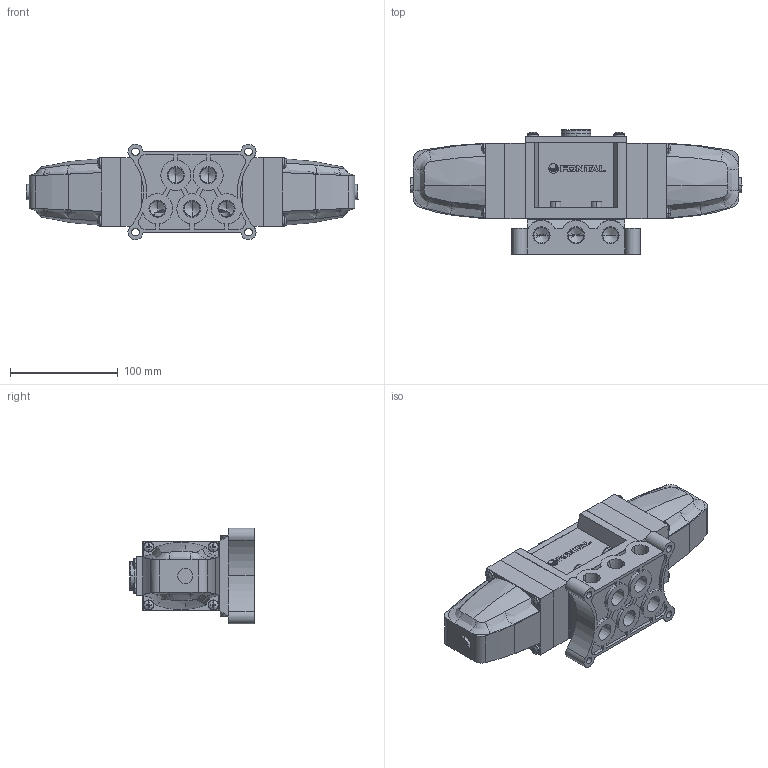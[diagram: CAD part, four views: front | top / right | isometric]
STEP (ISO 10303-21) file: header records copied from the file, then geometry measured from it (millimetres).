
FILE_DESCRIPTION (( 'STEP AP203' ), '1' );
FILE_NAME ('AD(DE)3410-03-##.STEP', '2016-03-09T02:51:09', ( 'Sam Lin' ), ( '' ), 'SwSTEP 2.0', 'SolidWorks 2013', '' );
FILE_SCHEMA (( 'CONFIG_CONTROL_DESIGN' ));
Length unit declared in the file: metre
Products named in the file (11): AS2410-5; AS2410-6; AS2410-1; AS2410-7; A10-MARK; AD(DE)3410-03-##; AS2310-3; ISO 7045 - M5 x 16; AS2410-3; AS2410-4; ISO 4762 M6 x 16
Assembly tree (26 placements, depth 2):
  AD(DE)3410-03-##
    AS2410-1
    A10-MARK
    AS2310-3  x2
    ISO 7045 - M5 x 16  x12
    AS2410-3
    AS2410-4
    ISO 4762 M6 x 16  x4
    AS2410-5
    AS2410-6
    AS2410-7  x2
Bounding box: 308 x 115.6 x 88.6 mm (x, y, z)
Volume: 1243083.8 mm3; surface area: 190757.8 mm2
Topology: 32 solids, 32 shells, 945 faces, 2364 edges, 1483 vertices
Faces by surface type: plane 469, cylinder 218, bspline 130, cone 128
Entity records: 17058 total; most frequent: CARTESIAN_POINT 4927, ORIENTED_EDGE 2186, DIRECTION 2178, EDGE_CURVE 1093, AXIS2_PLACEMENT_3D 789, VERTEX_POINT 715, LINE 600, VECTOR 600
